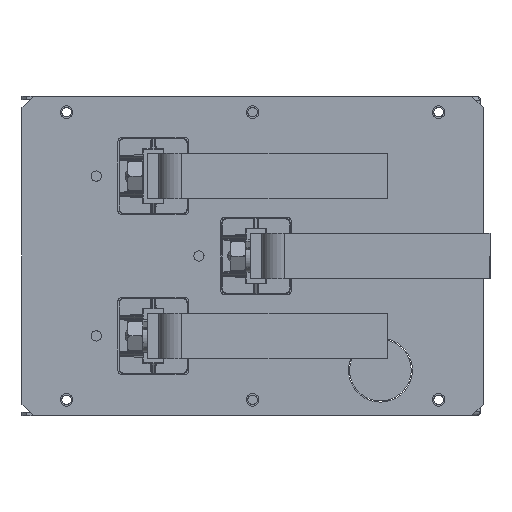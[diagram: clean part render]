
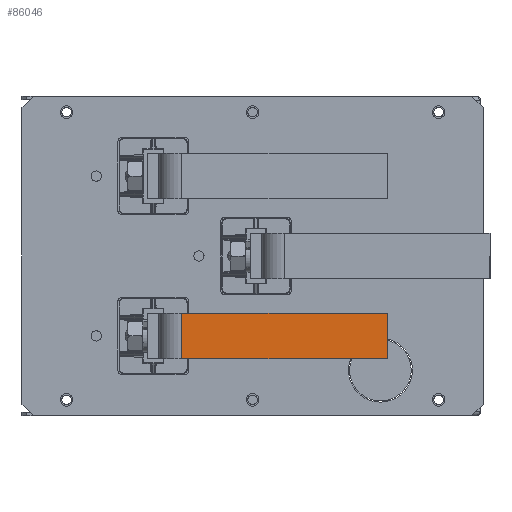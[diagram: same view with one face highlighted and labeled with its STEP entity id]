
A CAD part, front view. The second image highlights one B-rep face of the part: STEP entity #86046.
In plain terms, the highlighted planar face has unit normal (0, -1, 0) as drawn and (0, 0, 1) by its records, which use the part's own axes.
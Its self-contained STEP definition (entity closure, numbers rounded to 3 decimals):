
#85751=CARTESIAN_POINT(' ',(97.5,10.,70.));
#85756=DIRECTION(' ',(0.,-1.,0.));
#85761=VECTOR(' ',#85756,1.);
#85766=LINE('',#85751,#85761);
#85771=CARTESIAN_POINT(' ',(97.5,10.,70.));
#85772=VERTEX_POINT(' ',#85771);
#85776=CARTESIAN_POINT(' ',(97.5,-10.,70.));
#85777=VERTEX_POINT(' ',#85776);
#85781=EDGE_CURVE(' ',#85772,#85777,#85766,.T.);
#85906=DIRECTION(' ',(0.,0.,1.));
#85911=CARTESIAN_POINT(' ',(7.5,10.,70.));
#85916=DIRECTION(' ',(0.,-1.,0.));
#85921=AXIS2_PLACEMENT_3D(' ',#85911,#85906,#85916);
#85926=PLANE('NONE',#85921);
#85931=CARTESIAN_POINT(' ',(7.5,10.,70.));
#85936=DIRECTION(' ',(1.,0.,0.));
#85941=VECTOR(' ',#85936,1.);
#85946=LINE('',#85931,#85941);
#85951=CARTESIAN_POINT(' ',(7.5,10.,70.));
#85952=VERTEX_POINT(' ',#85951);
#85956=EDGE_CURVE(' ',#85952,#85772,#85946,.T.);
#85961=ORIENTED_EDGE(' ',*,*,#85956,.F.);
#85966=CARTESIAN_POINT(' ',(7.5,10.,70.));
#85971=DIRECTION(' ',(0.,-1.,0.));
#85976=VECTOR(' ',#85971,1.);
#85981=LINE('',#85966,#85976);
#85986=CARTESIAN_POINT(' ',(7.5,-10.,70.));
#85987=VERTEX_POINT(' ',#85986);
#85991=EDGE_CURVE(' ',#85952,#85987,#85981,.T.);
#85996=ORIENTED_EDGE(' ',*,*,#85991,.T.);
#86001=CARTESIAN_POINT(' ',(7.5,-10.,70.));
#86006=DIRECTION(' ',(1.,0.,0.));
#86011=VECTOR(' ',#86006,1.);
#86016=LINE('',#86001,#86011);
#86021=EDGE_CURVE(' ',#85987,#85777,#86016,.T.);
#86026=ORIENTED_EDGE(' ',*,*,#86021,.T.);
#86031=ORIENTED_EDGE(' ',*,*,#85781,.F.);
#86036=EDGE_LOOP(' ',(#85961,#85996,#86026,#86031));
#86041=FACE_OUTER_BOUND(' ',#86036,.T.);
#86046=ADVANCED_FACE('NONE',(#86041),#85926,.T.);
